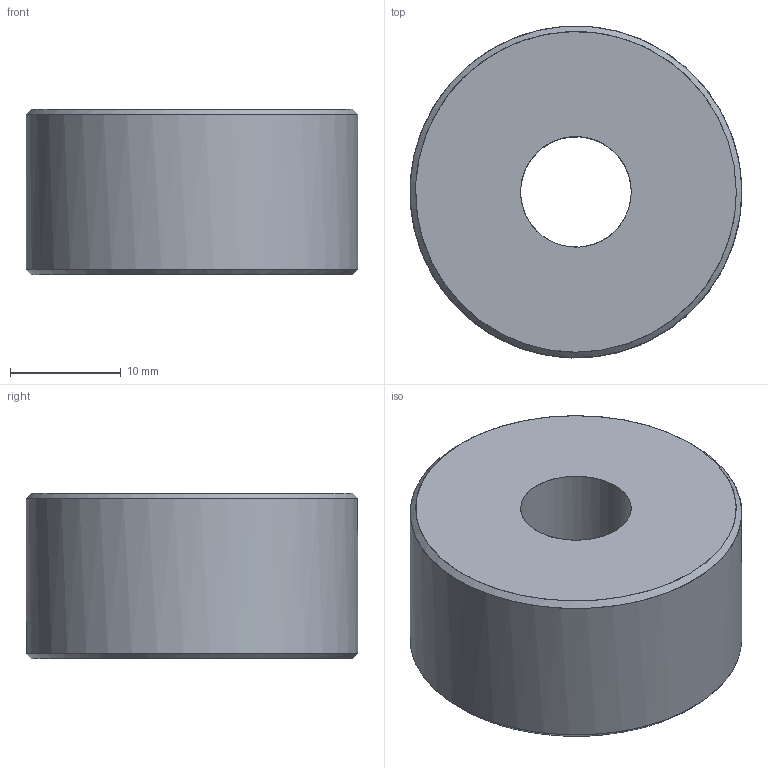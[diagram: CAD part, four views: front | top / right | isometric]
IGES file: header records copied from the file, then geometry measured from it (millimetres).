
Start section: File produced by SOLID-CONCEP (Trim Surfaces - Entity 144)
Global section: file name: galet.igs; native system: SOLID-CONCEPT V.5.xx; preprocessor: SOLID-CONCEPT-IGES-OUT v2.00; date: 100220.124830; units: millimetre
Bounding box: 29.98 x 29.99 x 15 mm (x, y, z)
Surface area: 3085.7 mm2 (no closed solid volume)
Topology: 0 solids, 0 shells, 6 faces, 32 edges, 24 vertices
Faces by surface type: revolution 4, bspline 2
